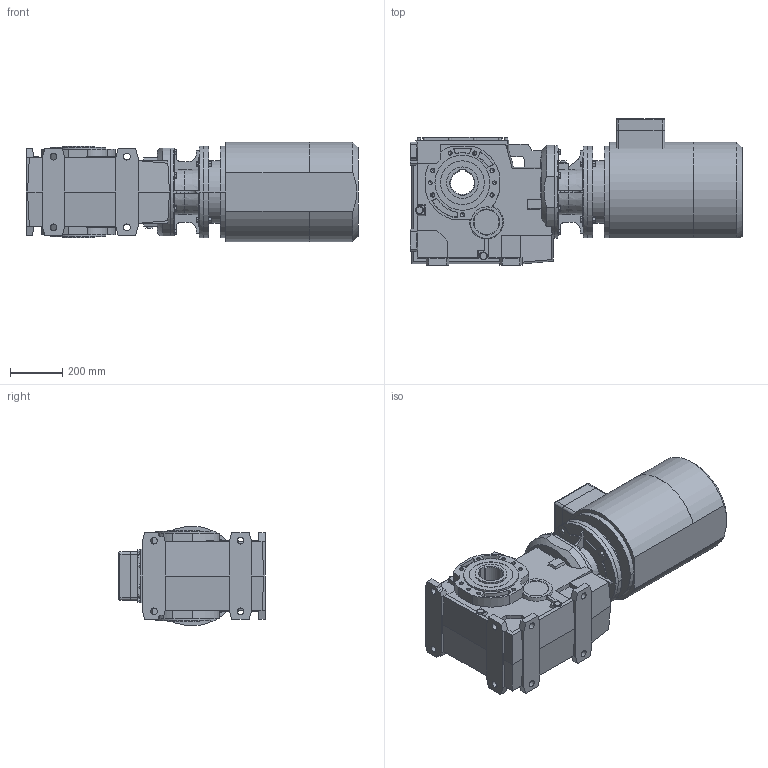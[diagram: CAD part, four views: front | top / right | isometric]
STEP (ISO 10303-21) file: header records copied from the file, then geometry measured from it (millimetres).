
FILE_DESCRIPTION( ( '' ), '1' );
FILE_NAME( '//expscmdclustefs.cadenas.external/client_exchange/iodir/jobs/output/wkb50801761_no0/STEP/B153UC10_49180_B590000000T180M1_2_03.stp', '2012-11-06T01:32:38', ( '' ), ( '' ), ' ', ' ', ' ' );
FILE_SCHEMA( ( 'CONFIG_CONTROL_DESIGN' ) );
Length unit declared in the file: millimetre
Products named in the file (7): 1; 2; 3; 4; 5; 6; 7
Bounding box: 1266.5 x 560 x 379.84 mm (x, y, z)
Volume: 138401628.5 mm3; surface area: 3763545.3 mm2
Topology: 7 solids, 7 shells, 943 faces, 2438 edges, 1573 vertices
Faces by surface type: plane 576, cylinder 248, cone 116, torus 3
Entity records: 28807 total; most frequent: CARTESIAN_POINT 5297, DIRECTION 4847, ORIENTED_EDGE 4804, EDGE_CURVE 2402, LINE 1625, VECTOR 1625, AXIS2_PLACEMENT_3D 1611, VERTEX_POINT 1573
